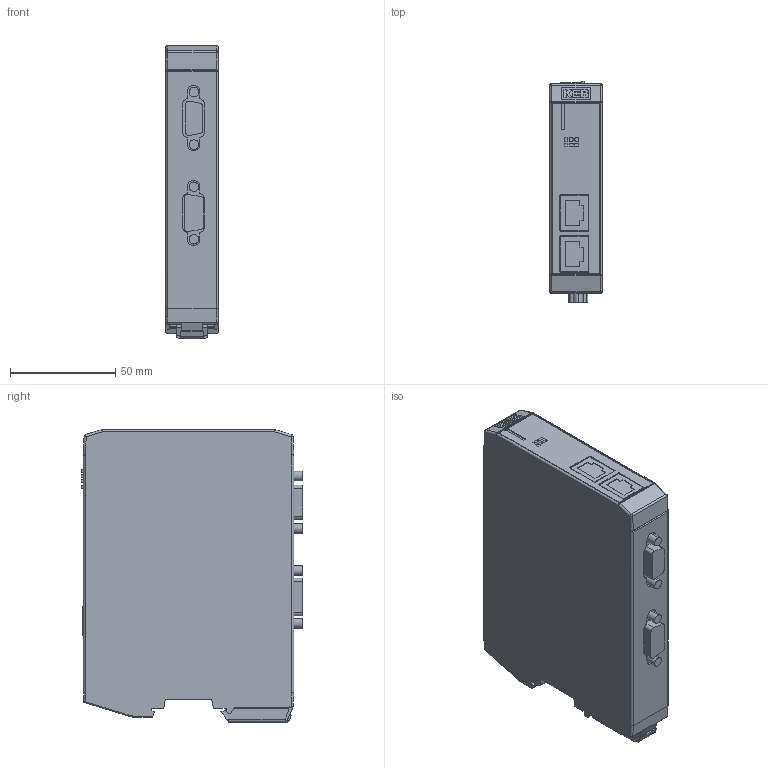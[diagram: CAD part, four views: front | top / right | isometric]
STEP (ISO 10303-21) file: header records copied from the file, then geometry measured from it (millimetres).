
FILE_DESCRIPTION (( 'STEP AP214' ), '1' );
FILE_NAME ('00C6BE1-2001.STEP', '2025-05-12T13:03:16', ( '' ), ( '' ), 'SwSTEP 2.0', 'SolidWorks 2022', '' );
FILE_SCHEMA (( 'AUTOMOTIVE_DESIGN' ));
Length unit declared in the file: millimetre
Products named in the file (1): 00C6BE1-2001
Bounding box: 25 x 105.36 x 139.25 mm (x, y, z)
Volume: 332562.5 mm3; surface area: 40237.9 mm2
Topology: 1 solids, 1 shells, 438 faces, 1159 edges, 750 vertices
Faces by surface type: plane 276, cylinder 127, bspline 35
Entity records: 15249 total; most frequent: CARTESIAN_POINT 4657, ORIENTED_EDGE 2302, DIRECTION 1992, EDGE_CURVE 1151, LINE 810, VECTOR 810, VERTEX_POINT 750, AXIS2_PLACEMENT_3D 591
